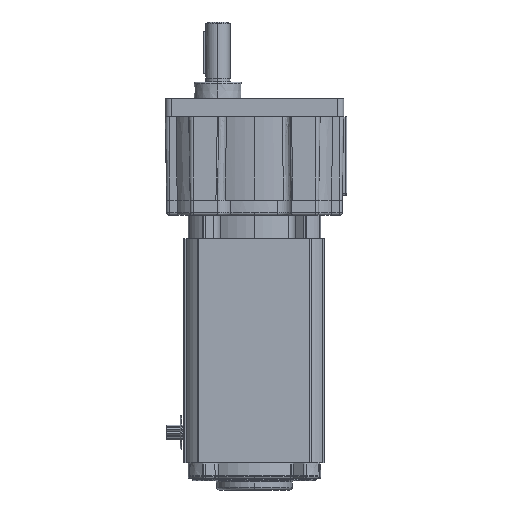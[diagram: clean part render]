
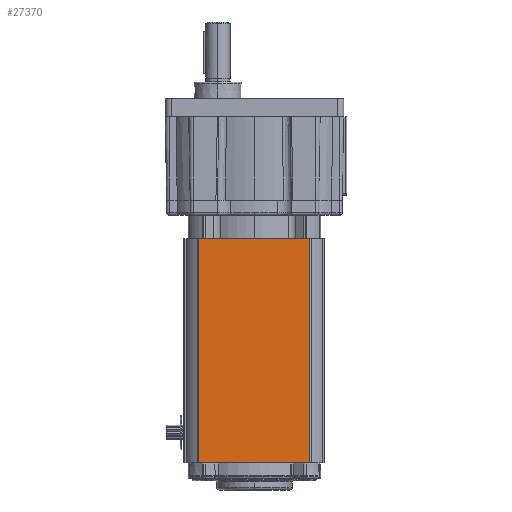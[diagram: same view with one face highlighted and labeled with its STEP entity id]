
A CAD part, left-side view. The second image highlights one B-rep face of the part: STEP entity #27370.
In plain terms, the highlighted planar face has unit normal (-1, 0, 0).
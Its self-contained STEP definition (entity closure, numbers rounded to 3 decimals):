
#312 = LINE ( 'NONE', #17926, #29468 ) ;
#819 = LINE ( 'NONE', #12720, #49061 ) ;
#891 = ORIENTED_EDGE ( 'NONE', *, *, #37437, .F. ) ;
#2041 = VECTOR ( 'NONE', #15108, 1000. ) ;
#2691 = PLANE ( 'NONE',  #5899 ) ;
#2734 = ORIENTED_EDGE ( 'NONE', *, *, #22750, .T. ) ;
#2938 = EDGE_CURVE ( 'NONE', #30236, #42742, #312, .T. ) ;
#5120 = VERTEX_POINT ( 'NONE', #32530 ) ;
#5899 = AXIS2_PLACEMENT_3D ( 'NONE', #19141, #15309, #41596 ) ;
#8774 = DIRECTION ( 'NONE',  ( 0., 1., 0. ) ) ;
#12615 = LINE ( 'NONE', #19754, #43549 ) ;
#12720 = CARTESIAN_POINT ( 'NONE',  ( -36.622, -28.848, -189.255 ) ) ;
#15108 = DIRECTION ( 'NONE',  ( 0., -1., 0. ) ) ;
#15309 = DIRECTION ( 'NONE',  ( -1., 0., 0. ) ) ;
#17926 = CARTESIAN_POINT ( 'NONE',  ( -36.632, 28.835, -191.11 ) ) ;
#18619 = CARTESIAN_POINT ( 'NONE',  ( -36.622, -29.356, -72.847 ) ) ;
#19141 = CARTESIAN_POINT ( 'NONE',  ( -36.622, -29.356, -191.11 ) ) ;
#19749 = EDGE_CURVE ( 'NONE', #5120, #42742, #819, .T. ) ;
#19754 = CARTESIAN_POINT ( 'NONE',  ( -36.622, -28.848, -191.11 ) ) ;
#21413 = VERTEX_POINT ( 'NONE', #41580 ) ;
#22750 = EDGE_CURVE ( 'NONE', #5120, #21413, #12615, .T. ) ;
#23577 = DIRECTION ( 'NONE',  ( 0., 0., 1. ) ) ;
#26514 = ORIENTED_EDGE ( 'NONE', *, *, #19749, .F. ) ;
#27370 = ADVANCED_FACE ( 'NONE', ( #35140 ), #2691, .T. ) ;
#29468 = VECTOR ( 'NONE', #40555, 1000. ) ;
#30236 = VERTEX_POINT ( 'NONE', #43522 ) ;
#30919 = EDGE_LOOP ( 'NONE', ( #31227, #26514, #2734, #891 ) ) ;
#31227 = ORIENTED_EDGE ( 'NONE', *, *, #2938, .T. ) ;
#32387 = LINE ( 'NONE', #18619, #2041 ) ;
#32530 = CARTESIAN_POINT ( 'NONE',  ( -36.622, -28.848, -189.255 ) ) ;
#35140 = FACE_OUTER_BOUND ( 'NONE', #30919, .T. ) ;
#37437 = EDGE_CURVE ( 'NONE', #30236, #21413, #32387, .T. ) ;
#40555 = DIRECTION ( 'NONE',  ( 0., 0., -1. ) ) ;
#40852 = CARTESIAN_POINT ( 'NONE',  ( -36.632, 28.835, -189.255 ) ) ;
#41580 = CARTESIAN_POINT ( 'NONE',  ( -36.622, -28.848, -72.847 ) ) ;
#41596 = DIRECTION ( 'NONE',  ( 0., 0., 1. ) ) ;
#42742 = VERTEX_POINT ( 'NONE', #40852 ) ;
#43522 = CARTESIAN_POINT ( 'NONE',  ( -36.632, 28.835, -72.847 ) ) ;
#43549 = VECTOR ( 'NONE', #23577, 1000. ) ;
#49061 = VECTOR ( 'NONE', #8774, 1000. ) ;
